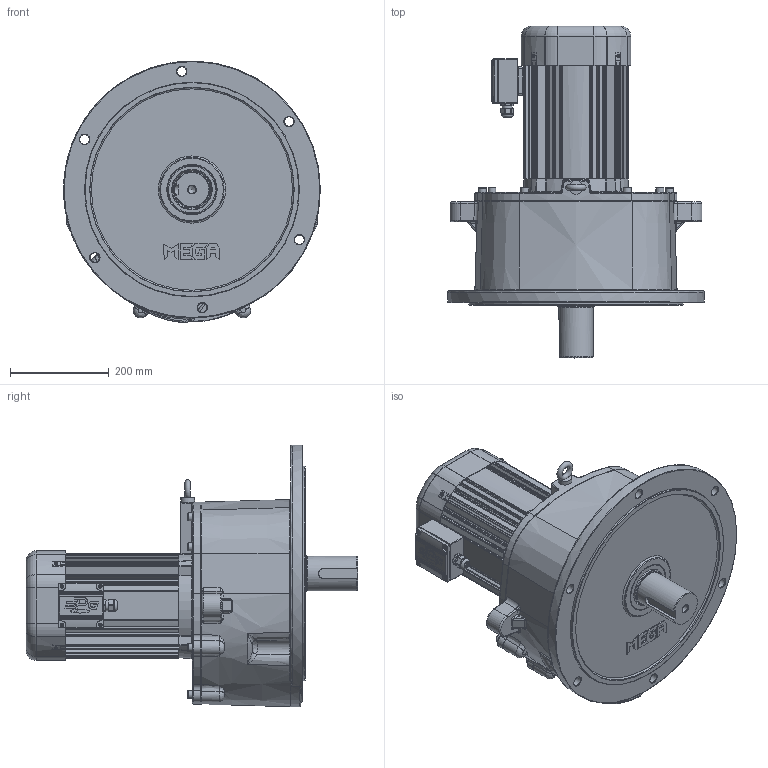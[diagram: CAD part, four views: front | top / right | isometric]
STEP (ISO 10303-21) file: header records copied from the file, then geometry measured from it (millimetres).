
FILE_DESCRIPTION(/* description */ (''),/* implementation_level */ '2;1');
FILE_NAME(/* name */ 'Z:\동력 3D 파일\PMK270_3.7kW_3D.stp',/* time_stamp */ '2021-12-01T14:13:21+09:00',/* author */ ('jaebok'),/* organization */ (''),/* preprocessor_version */ 'ST-DEVELOPER v18.1',/* originating_system */ 'Autodesk Inventor 2022',/* authorisation */ '');
FILE_SCHEMA (('AUTOMOTIVE_DESIGN { 1 0 10303 214 3 1 1 }'));
Products named in the file (1): 부품19
Bounding box: 519.84 x 672 x 529.84 mm (x, y, z)
Volume: 16977097.6 mm3; surface area: 2399998 mm2
Topology: 14 solids, 37 shells, 3184 faces, 7976 edges, 4906 vertices
Faces by surface type: plane 992, cylinder 896, bspline 651, torus 339, cone 219, sphere 87
Full cylindrical faces by diameter (mm): 3.25 x1, 3.6 x4, 4 x21, 4.5 x4, 5 x18, 6 x5, 6.647 x4, 7 x8, 8 x5, 9 x4, 10 x10, 10.106 x2, 12 x9, 12.5 x1, 13.835 x9, 15 x1, 16 x9, 17 x8, 19 x6, 20 x2, 21 x1, 23.6 x1, 25 x1, 26 x1, 28 x1, 31 x1, 36 x1, 48 x1, 50 x1, 55 x1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
Entity records: 123481 total; most frequent: CARTESIAN_POINT 47489, ORIENTED_EDGE 15758, DIRECTION 14575, EDGE_CURVE 7879, AXIS2_PLACEMENT_3D 5868, VERTEX_POINT 4909, EDGE_LOOP 3456, CIRCLE 3303
